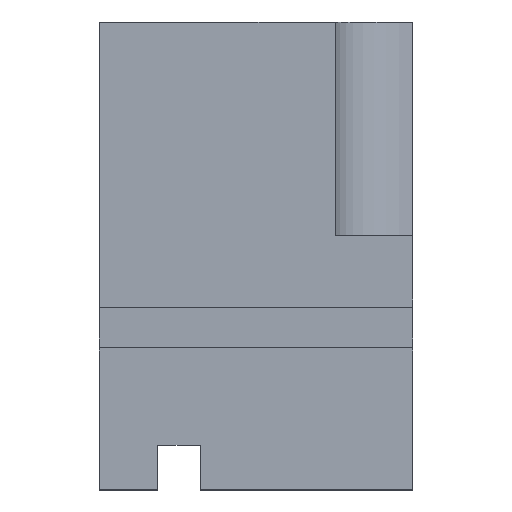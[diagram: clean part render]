
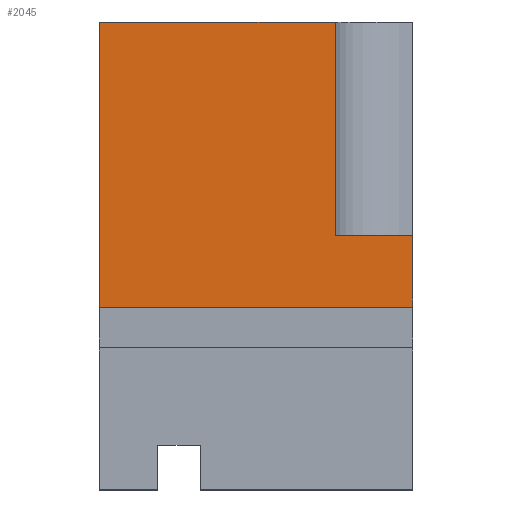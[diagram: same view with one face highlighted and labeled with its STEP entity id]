
A CAD part, top view. The second image highlights one B-rep face of the part: STEP entity #2045.
In plain terms, the highlighted planar face has unit normal (0, 0, 1).
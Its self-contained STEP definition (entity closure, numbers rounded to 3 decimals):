
#286 = PLANE('',#287);
#287 = AXIS2_PLACEMENT_3D('',#288,#289,#290);
#288 = CARTESIAN_POINT('',(27.094,0.,0.));
#289 = DIRECTION('',(1.,0.,-0.));
#290 = DIRECTION('',(0.,0.,1.));
#590 = PLANE('',#591);
#591 = AXIS2_PLACEMENT_3D('',#592,#593,#594);
#592 = CARTESIAN_POINT('',(0.,40.461,0.));
#593 = DIRECTION('',(-0.,1.,0.));
#594 = DIRECTION('',(0.,0.,1.));
#618 = PLANE('',#619);
#619 = AXIS2_PLACEMENT_3D('',#620,#621,#622);
#620 = CARTESIAN_POINT('',(0.,0.,0.));
#621 = DIRECTION('',(1.,0.,-0.));
#622 = DIRECTION('',(0.,0.,1.));
#1034 = CYLINDRICAL_SURFACE('',#1035,6.688);
#1035 = AXIS2_PLACEMENT_3D('',#1036,#1037,#1038);
#1036 = CARTESIAN_POINT('',(27.094,40.461,
    12.797));
#1037 = DIRECTION('',(0.,1.,0.));
#1038 = DIRECTION('',(0.,-0.,1.));
#1047 = VERTEX_POINT('',#1048);
#1048 = CARTESIAN_POINT('',(27.094,21.988,
    12.797));
#1062 = PLANE('',#1063);
#1063 = AXIS2_PLACEMENT_3D('',#1064,#1065,#1066);
#1064 = CARTESIAN_POINT('',(24.335,21.988,
    10.038));
#1065 = DIRECTION('',(0.,1.,0.));
#1066 = DIRECTION('',(0.,-0.,1.));
#1074 = EDGE_CURVE('',#1075,#1047,#1077,.T.);
#1075 = VERTEX_POINT('',#1076);
#1076 = CARTESIAN_POINT('',(27.094,15.803,
    12.797));
#1077 = SURFACE_CURVE('',#1078,(#1082,#1089),.PCURVE_S1.);
#1078 = LINE('',#1079,#1080);
#1079 = CARTESIAN_POINT('',(27.094,0.,12.797));
#1080 = VECTOR('',#1081,1.);
#1081 = DIRECTION('',(-0.,1.,0.));
#1082 = PCURVE('',#286,#1083);
#1083 = DEFINITIONAL_REPRESENTATION('',(#1084),#1088);
#1084 = LINE('',#1085,#1086);
#1085 = CARTESIAN_POINT('',(12.797,0.));
#1086 = VECTOR('',#1087,1.);
#1087 = DIRECTION('',(0.,-1.));
#1088 = ( GEOMETRIC_REPRESENTATION_CONTEXT(2) 
PARAMETRIC_REPRESENTATION_CONTEXT() REPRESENTATION_CONTEXT('2D SPACE',''
  ) );
#1089 = PCURVE('',#1090,#1095);
#1090 = PLANE('',#1091);
#1091 = AXIS2_PLACEMENT_3D('',#1092,#1093,#1094);
#1092 = CARTESIAN_POINT('',(0.,0.,12.797));
#1093 = DIRECTION('',(0.,0.,1.));
#1094 = DIRECTION('',(1.,0.,-0.));
#1095 = DEFINITIONAL_REPRESENTATION('',(#1096),#1100);
#1096 = LINE('',#1097,#1098);
#1097 = CARTESIAN_POINT('',(27.094,0.));
#1098 = VECTOR('',#1099,1.);
#1099 = DIRECTION('',(0.,1.));
#1100 = ( GEOMETRIC_REPRESENTATION_CONTEXT(2) 
PARAMETRIC_REPRESENTATION_CONTEXT() REPRESENTATION_CONTEXT('2D SPACE',''
  ) );
#1118 = PLANE('',#1119);
#1119 = AXIS2_PLACEMENT_3D('',#1120,#1121,#1122);
#1120 = CARTESIAN_POINT('',(27.094,15.803,
    1.642));
#1121 = DIRECTION('',(-0.,1.,0.));
#1122 = DIRECTION('',(0.,0.,1.));
#1591 = VERTEX_POINT('',#1592);
#1592 = CARTESIAN_POINT('',(0.,40.461,12.797));
#1613 = EDGE_CURVE('',#1614,#1591,#1616,.T.);
#1614 = VERTEX_POINT('',#1615);
#1615 = CARTESIAN_POINT('',(0.,15.803,12.797));
#1616 = SURFACE_CURVE('',#1617,(#1621,#1628),.PCURVE_S1.);
#1617 = LINE('',#1618,#1619);
#1618 = CARTESIAN_POINT('',(0.,0.,12.797));
#1619 = VECTOR('',#1620,1.);
#1620 = DIRECTION('',(-0.,1.,0.));
#1621 = PCURVE('',#618,#1622);
#1622 = DEFINITIONAL_REPRESENTATION('',(#1623),#1627);
#1623 = LINE('',#1624,#1625);
#1624 = CARTESIAN_POINT('',(12.797,0.));
#1625 = VECTOR('',#1626,1.);
#1626 = DIRECTION('',(0.,-1.));
#1627 = ( GEOMETRIC_REPRESENTATION_CONTEXT(2) 
PARAMETRIC_REPRESENTATION_CONTEXT() REPRESENTATION_CONTEXT('2D SPACE',''
  ) );
#1628 = PCURVE('',#1090,#1629);
#1629 = DEFINITIONAL_REPRESENTATION('',(#1630),#1634);
#1630 = LINE('',#1631,#1632);
#1631 = CARTESIAN_POINT('',(0.,0.));
#1632 = VECTOR('',#1633,1.);
#1633 = DIRECTION('',(0.,1.));
#1634 = ( GEOMETRIC_REPRESENTATION_CONTEXT(2) 
PARAMETRIC_REPRESENTATION_CONTEXT() REPRESENTATION_CONTEXT('2D SPACE',''
  ) );
#1718 = EDGE_CURVE('',#1591,#1719,#1721,.T.);
#1719 = VERTEX_POINT('',#1720);
#1720 = CARTESIAN_POINT('',(20.406,40.461,
    12.797));
#1721 = SURFACE_CURVE('',#1722,(#1726,#1733),.PCURVE_S1.);
#1722 = LINE('',#1723,#1724);
#1723 = CARTESIAN_POINT('',(0.,40.461,12.797));
#1724 = VECTOR('',#1725,1.);
#1725 = DIRECTION('',(1.,0.,-0.));
#1726 = PCURVE('',#590,#1727);
#1727 = DEFINITIONAL_REPRESENTATION('',(#1728),#1732);
#1728 = LINE('',#1729,#1730);
#1729 = CARTESIAN_POINT('',(12.797,0.));
#1730 = VECTOR('',#1731,1.);
#1731 = DIRECTION('',(0.,1.));
#1732 = ( GEOMETRIC_REPRESENTATION_CONTEXT(2) 
PARAMETRIC_REPRESENTATION_CONTEXT() REPRESENTATION_CONTEXT('2D SPACE',''
  ) );
#1733 = PCURVE('',#1090,#1734);
#1734 = DEFINITIONAL_REPRESENTATION('',(#1735),#1739);
#1735 = LINE('',#1736,#1737);
#1736 = CARTESIAN_POINT('',(0.,40.461));
#1737 = VECTOR('',#1738,1.);
#1738 = DIRECTION('',(1.,0.));
#1739 = ( GEOMETRIC_REPRESENTATION_CONTEXT(2) 
PARAMETRIC_REPRESENTATION_CONTEXT() REPRESENTATION_CONTEXT('2D SPACE',''
  ) );
#1939 = EDGE_CURVE('',#1075,#1614,#1940,.T.);
#1940 = SURFACE_CURVE('',#1941,(#1945,#1952),.PCURVE_S1.);
#1941 = LINE('',#1942,#1943);
#1942 = CARTESIAN_POINT('',(27.094,15.803,
    12.797));
#1943 = VECTOR('',#1944,1.);
#1944 = DIRECTION('',(-1.,-0.,0.));
#1945 = PCURVE('',#1118,#1946);
#1946 = DEFINITIONAL_REPRESENTATION('',(#1947),#1951);
#1947 = LINE('',#1948,#1949);
#1948 = CARTESIAN_POINT('',(11.156,0.));
#1949 = VECTOR('',#1950,1.);
#1950 = DIRECTION('',(0.,-1.));
#1951 = ( GEOMETRIC_REPRESENTATION_CONTEXT(2) 
PARAMETRIC_REPRESENTATION_CONTEXT() REPRESENTATION_CONTEXT('2D SPACE',''
  ) );
#1952 = PCURVE('',#1090,#1953);
#1953 = DEFINITIONAL_REPRESENTATION('',(#1954),#1958);
#1954 = LINE('',#1955,#1956);
#1955 = CARTESIAN_POINT('',(27.094,15.803));
#1956 = VECTOR('',#1957,1.);
#1957 = DIRECTION('',(-1.,0.));
#1958 = ( GEOMETRIC_REPRESENTATION_CONTEXT(2) 
PARAMETRIC_REPRESENTATION_CONTEXT() REPRESENTATION_CONTEXT('2D SPACE',''
  ) );
#2045 = ADVANCED_FACE('f021',(#2046),#1090,.T.);
#2046 = FACE_BOUND('',#2047,.T.);
#2047 = EDGE_LOOP('',(#2048,#2049,#2050,#2051,#2052,#2075));
#2048 = ORIENTED_EDGE('',*,*,#1718,.F.);
#2049 = ORIENTED_EDGE('',*,*,#1613,.F.);
#2050 = ORIENTED_EDGE('',*,*,#1939,.F.);
#2051 = ORIENTED_EDGE('',*,*,#1074,.T.);
#2052 = ORIENTED_EDGE('',*,*,#2053,.F.);
#2053 = EDGE_CURVE('',#2054,#1047,#2056,.T.);
#2054 = VERTEX_POINT('',#2055);
#2055 = CARTESIAN_POINT('',(20.406,21.988,
    12.797));
#2056 = SURFACE_CURVE('',#2057,(#2061,#2068),.PCURVE_S1.);
#2057 = LINE('',#2058,#2059);
#2058 = CARTESIAN_POINT('',(20.406,21.988,
    12.797));
#2059 = VECTOR('',#2060,1.);
#2060 = DIRECTION('',(1.,0.,0.));
#2061 = PCURVE('',#1090,#2062);
#2062 = DEFINITIONAL_REPRESENTATION('',(#2063),#2067);
#2063 = LINE('',#2064,#2065);
#2064 = CARTESIAN_POINT('',(20.406,21.988));
#2065 = VECTOR('',#2066,1.);
#2066 = DIRECTION('',(1.,0.));
#2067 = ( GEOMETRIC_REPRESENTATION_CONTEXT(2) 
PARAMETRIC_REPRESENTATION_CONTEXT() REPRESENTATION_CONTEXT('2D SPACE',''
  ) );
#2068 = PCURVE('',#1062,#2069);
#2069 = DEFINITIONAL_REPRESENTATION('',(#2070),#2074);
#2070 = LINE('',#2071,#2072);
#2071 = CARTESIAN_POINT('',(2.759,-3.929));
#2072 = VECTOR('',#2073,1.);
#2073 = DIRECTION('',(0.,1.));
#2074 = ( GEOMETRIC_REPRESENTATION_CONTEXT(2) 
PARAMETRIC_REPRESENTATION_CONTEXT() REPRESENTATION_CONTEXT('2D SPACE',''
  ) );
#2075 = ORIENTED_EDGE('',*,*,#2076,.F.);
#2076 = EDGE_CURVE('',#1719,#2054,#2077,.T.);
#2077 = SURFACE_CURVE('',#2078,(#2082,#2089),.PCURVE_S1.);
#2078 = LINE('',#2079,#2080);
#2079 = CARTESIAN_POINT('',(20.406,40.461,
    12.797));
#2080 = VECTOR('',#2081,1.);
#2081 = DIRECTION('',(0.,-1.,-0.));
#2082 = PCURVE('',#1090,#2083);
#2083 = DEFINITIONAL_REPRESENTATION('',(#2084),#2088);
#2084 = LINE('',#2085,#2086);
#2085 = CARTESIAN_POINT('',(20.406,40.461));
#2086 = VECTOR('',#2087,1.);
#2087 = DIRECTION('',(0.,-1.));
#2088 = ( GEOMETRIC_REPRESENTATION_CONTEXT(2) 
PARAMETRIC_REPRESENTATION_CONTEXT() REPRESENTATION_CONTEXT('2D SPACE',''
  ) );
#2089 = PCURVE('',#1034,#2090);
#2090 = DEFINITIONAL_REPRESENTATION('',(#2091),#2095);
#2091 = LINE('',#2092,#2093);
#2092 = CARTESIAN_POINT('',(4.712,0.));
#2093 = VECTOR('',#2094,1.);
#2094 = DIRECTION('',(0.,-1.));
#2095 = ( GEOMETRIC_REPRESENTATION_CONTEXT(2) 
PARAMETRIC_REPRESENTATION_CONTEXT() REPRESENTATION_CONTEXT('2D SPACE',''
  ) );
